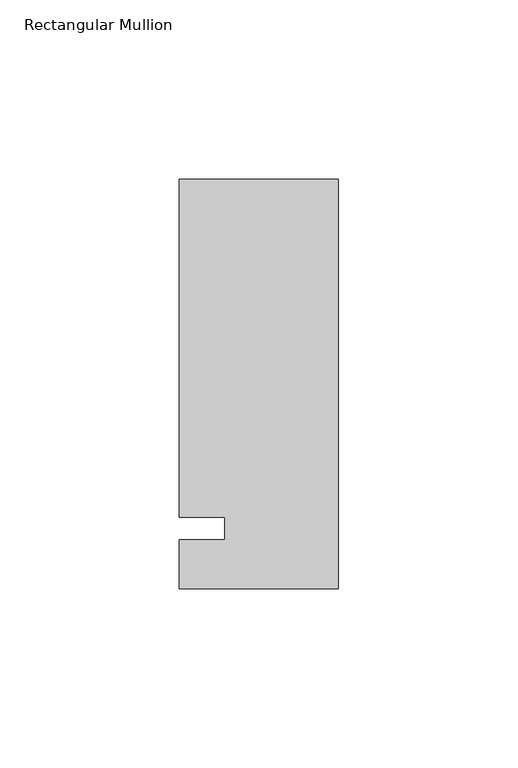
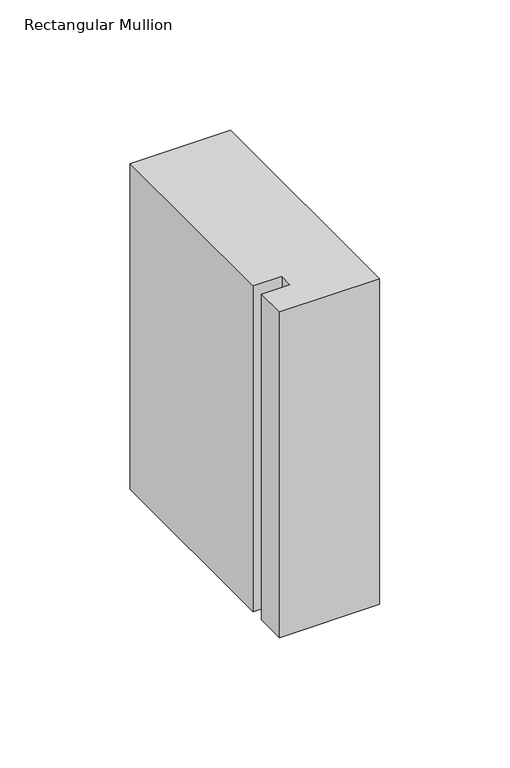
"""IFC4 building model written with IfcOpenShell, lengths in millimetres: member geometry, Rectangular Mullion : Kawneer-TRIFAB_VG_450_BACK_SB_Jamb L."""

from ifc_helpers import new_model, si_unit, frame, origin, place, context, project, spatial, polyline, outline, extrude, source, transform, mapped, element, save


def rectangular_mullion_3d4ac5a3(model_context):
    return source(origin(), model_context, "Body", "SweptSolid", [
        extrude(outline(polyline([(-44.45, -16.8671875), (-44.45, -3.2340721), (-31.7482296, -3.2340721), (-31.7482296, 3.1159279), (-44.45, 3.1159279), (-44.45, 97.4328125), (0.0, 97.4328125), (0.0, -16.8671875), (-44.45, -16.8671875)])), frame((0.0, 0.0, -152.4), z_axis=(0.0, 0.0, 1.0), x_axis=(1.0, 0.0, 0.0)), (0.0, 0.0, 1.0), 152.4),
    ])


if __name__ == "__main__":
    model = new_model("IFC4")
    model_context = context("Model", 3, world=origin())
    ifc_project = project(units=[si_unit("LENGTHUNIT", "METRE", prefix="MILLI")], contexts=[model_context])
    site = spatial("IfcSite", under=ifc_project)
    building = spatial("IfcBuilding", under=site)
    placement = place(None, origin())
    rectangular_mullion_shape = rectangular_mullion_3d4ac5a3(model_context)
    element("IfcMember", 1, ObjectType="Rectangular Mullion : Kawneer-TRIFAB_VG_450_BACK_SB_Jamb L", at=placement, inside=building, context=model_context, shape_type="MappedRepresentation", body=[
        mapped(rectangular_mullion_shape, transform((0.0, 0.0, 0.0), x_axis=(1.0, 0.0, 0.0), y_axis=(0.0, 1.0, 0.0), z_axis=(0.0, 0.0, 1.0))),
    ])
    save(model, "model.ifc")
